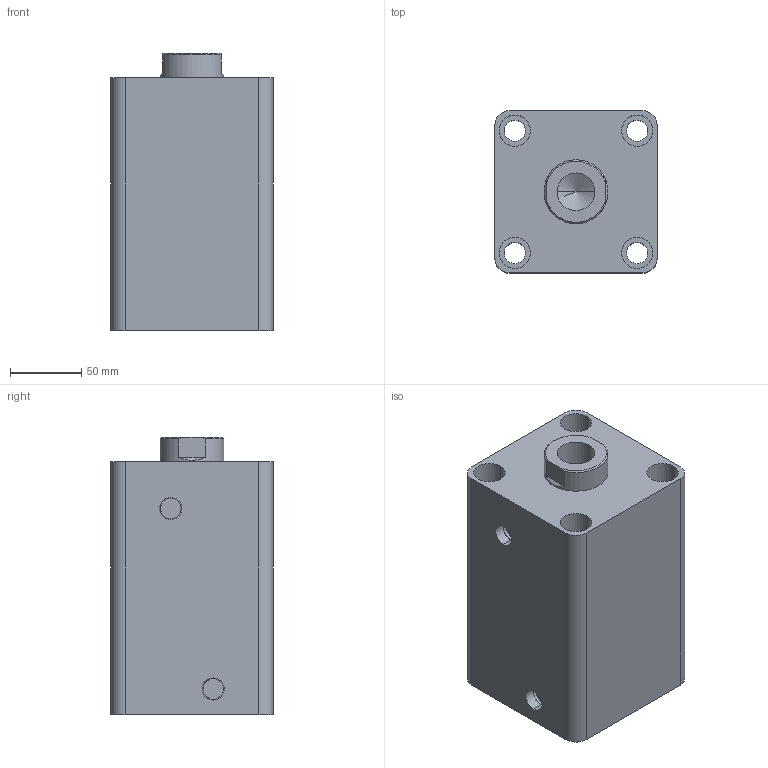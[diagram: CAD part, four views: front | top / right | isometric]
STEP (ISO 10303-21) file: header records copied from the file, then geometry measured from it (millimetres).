
FILE_DESCRIPTION (( 'STEP AP203' ), '1' );
FILE_NAME ('HTB-SD80-100N.STEP', '2019-10-07T08:42:36', ( '微软用户' ), ( '微软中国' ), 'SwSTEP 2.0', 'SolidWorks 2012', '' );
FILE_SCHEMA (( 'CONFIG_CONTROL_DESIGN' ));
Length unit declared in the file: millimetre
Products named in the file (3): HTB-SD80-100N; HTB-SD80-100N活塞杆; HTB-SD80-100掛极
Assembly tree (2 placements, depth 2):
  HTB-SD80-100N
    HTB-SD80-100掛极
    HTB-SD80-100N活塞杆
Bounding box: 114 x 114 x 195 mm (x, y, z)
Volume: 1805929.9 mm3; surface area: 225544.5 mm2
Topology: 2 solids, 2 shells, 83 faces, 184 edges, 119 vertices
Faces by surface type: cylinder 42, plane 27, cone 8, torus 6
Entity records: 2655 total; most frequent: DIRECTION 456, CARTESIAN_POINT 417, ORIENTED_EDGE 364, AXIS2_PLACEMENT_3D 194, EDGE_CURVE 182, VERTEX_POINT 119, EDGE_LOOP 107, CIRCLE 106
